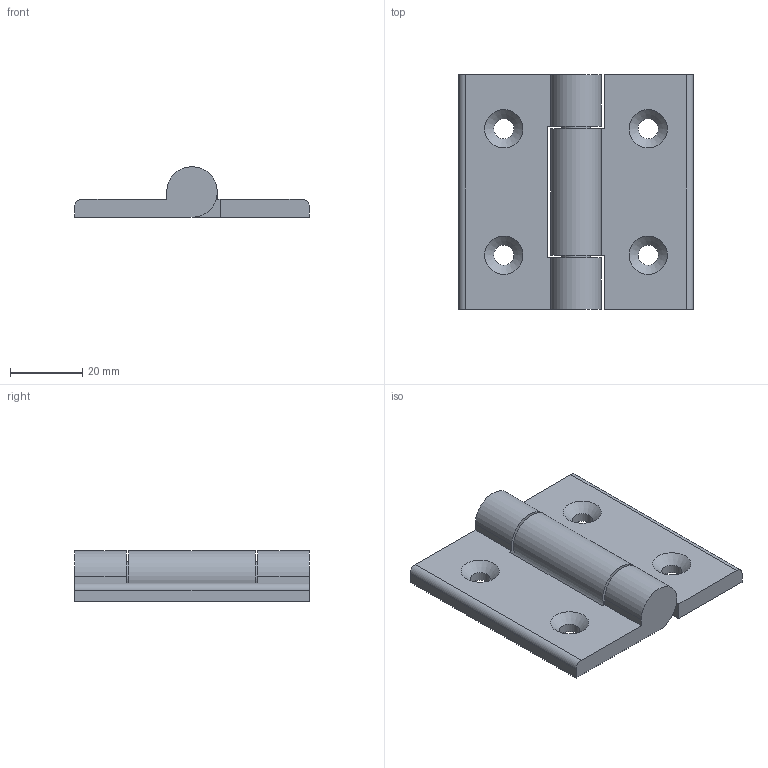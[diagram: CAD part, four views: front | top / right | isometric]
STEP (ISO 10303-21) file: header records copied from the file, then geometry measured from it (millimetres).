
FILE_DESCRIPTION(/* description */ ('STEP AP203'),/* implementation_level */ '2;1');
FILE_NAME(/* name */ 'HHSZ65',/* time_stamp */ '2023-12-22T01:38:15+01:00',/* author */ ('License CC BY-ND 4.0'),/* organization */ ('CADENAS'),/* preprocessor_version */ 'ST-DEVELOPER v19.3',/* originating_system */ 'PARTsolutions',/* authorisation */ ' ');
FILE_SCHEMA (('CONFIG_CONTROL_DESIGN'));
Length unit declared in the file: millimetre
Products named in the file (4): HHSZ65; HHSZ65_b; HHSZ65_c; HHSZ65_a
Assembly tree (3 placements, depth 2):
  HHSZ65
    HHSZ65_b
    HHSZ65_c
    HHSZ65_a
Bounding box: 65 x 65 x 14 mm (x, y, z)
Volume: 25949.5 mm3; surface area: 14480 mm2
Topology: 3 solids, 3 shells, 41 faces, 106 edges, 69 vertices
Faces by surface type: plane 20, cylinder 13, cone 4, sphere 4
Full cylindrical faces by diameter (mm): 5.6 x4, 8 x4
Entity records: 1228 total; most frequent: DIRECTION 203, CARTESIAN_POINT 190, ORIENTED_EDGE 166, EDGE_CURVE 83, AXIS2_PLACEMENT_3D 75, EDGE_LOOP 65, FACE_BOUND 65, VERTEX_POINT 62
